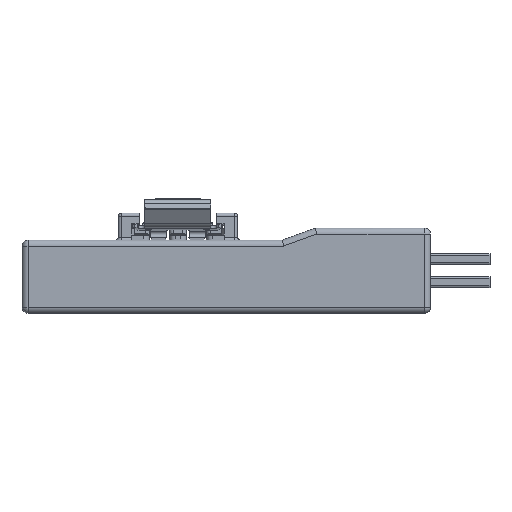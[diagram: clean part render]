
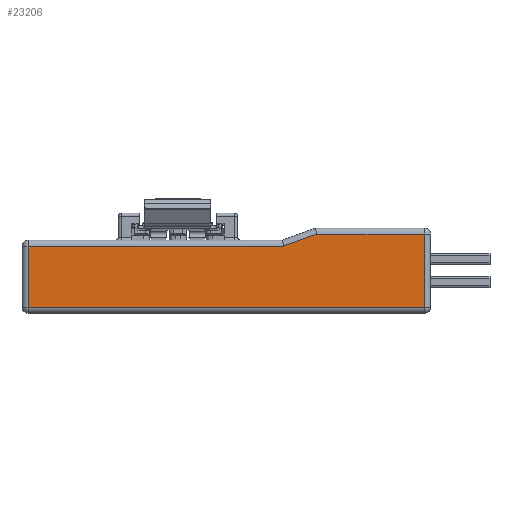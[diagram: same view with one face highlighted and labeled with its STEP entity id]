
A CAD part, front view. The second image highlights one B-rep face of the part: STEP entity #23206.
In plain terms, the highlighted planar face has unit normal (0, -1, 0) as drawn and (-1, 0, 0) by its records, which use the part's own axes.
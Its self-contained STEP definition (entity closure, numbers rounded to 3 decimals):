
#17580=DIRECTION('',(0.,0.,-1.));
#17581=VECTOR('',#17580,8.987);
#17582=CARTESIAN_POINT('',(-9.05,5.83,20.525));
#17583=LINE('',#17582,#17581);
#17608=DIRECTION('',(0.,1.,0.));
#17609=VECTOR('',#17608,6.1);
#17610=CARTESIAN_POINT('',(-9.05,-0.27,20.525));
#17611=LINE('',#17610,#17609);
#17616=DIRECTION('',(0.,0.342,0.94));
#17617=VECTOR('',#17616,2.924);
#17618=CARTESIAN_POINT('',(-9.05,4.83,8.791));
#17619=LINE('',#17618,#17617);
#17620=DIRECTION('',(0.,-1.,0.));
#17621=VECTOR('',#17620,5.1);
#17622=CARTESIAN_POINT('',(-9.05,4.83,-12.475));
#17623=LINE('',#17622,#17621);
#17647=DIRECTION('',(0.,0.,1.));
#17648=VECTOR('',#17647,33.);
#17649=CARTESIAN_POINT('',(-9.05,-0.27,-12.475));
#17650=LINE('',#17649,#17648);
#18497=DIRECTION('',(0.,0.,-1.));
#18498=VECTOR('',#18497,21.266);
#18499=CARTESIAN_POINT('',(-9.05,4.83,8.791));
#18500=LINE('',#18499,#18498);
#21424=CARTESIAN_POINT('',(-9.05,5.83,20.525));
#21425=VERTEX_POINT('',#21424);
#21426=CARTESIAN_POINT('',(-9.05,5.83,11.538));
#21427=VERTEX_POINT('',#21426);
#21428=CARTESIAN_POINT('',(-9.05,-0.27,20.525));
#21429=VERTEX_POINT('',#21428);
#21430=CARTESIAN_POINT('',(-9.05,4.83,-12.475));
#21431=CARTESIAN_POINT('',(-9.05,-0.27,-12.475));
#21432=VERTEX_POINT('',#21430);
#21433=VERTEX_POINT('',#21431);
#21434=CARTESIAN_POINT('',(-9.05,4.83,8.791));
#21435=VERTEX_POINT('',#21434);
#23189=CARTESIAN_POINT('',(-9.05,6.33,21.025));
#23190=DIRECTION('',(1.,0.,0.));
#23191=DIRECTION('',(0.,0.,-1.));
#23192=AXIS2_PLACEMENT_3D('',#23189,#23190,#23191);
#23193=PLANE('',#23192);
#23195=ORIENTED_EDGE('',*,*,#23194,.F.);
#23197=ORIENTED_EDGE('',*,*,#23196,.F.);
#23199=ORIENTED_EDGE('',*,*,#23198,.T.);
#23200=ORIENTED_EDGE('',*,*,#23156,.F.);
#23201=ORIENTED_EDGE('',*,*,#23180,.F.);
#23203=ORIENTED_EDGE('',*,*,#23202,.F.);
#23204=EDGE_LOOP('',(#23195,#23197,#23199,#23200,#23201,#23203));
#23205=FACE_OUTER_BOUND('',#23204,.F.);
#23206=ADVANCED_FACE('',(#23205),#23193,.F.);
#23156=EDGE_CURVE('',#21425,#21427,#17583,.T.);
#23180=EDGE_CURVE('',#21429,#21425,#17611,.T.);
#23194=EDGE_CURVE('',#21432,#21433,#17623,.T.);
#23196=EDGE_CURVE('',#21435,#21432,#18500,.T.);
#23198=EDGE_CURVE('',#21435,#21427,#17619,.T.);
#23202=EDGE_CURVE('',#21433,#21429,#17650,.T.);
